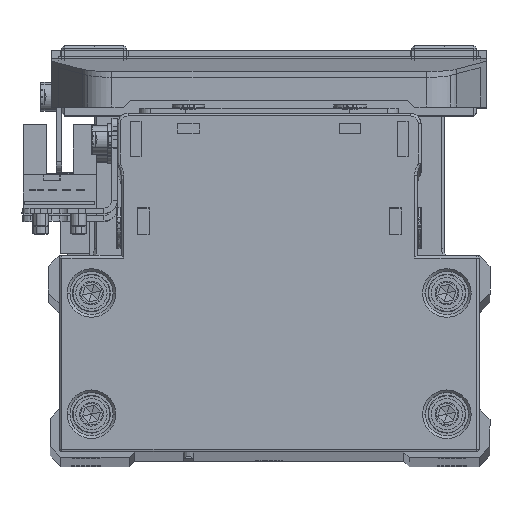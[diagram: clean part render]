
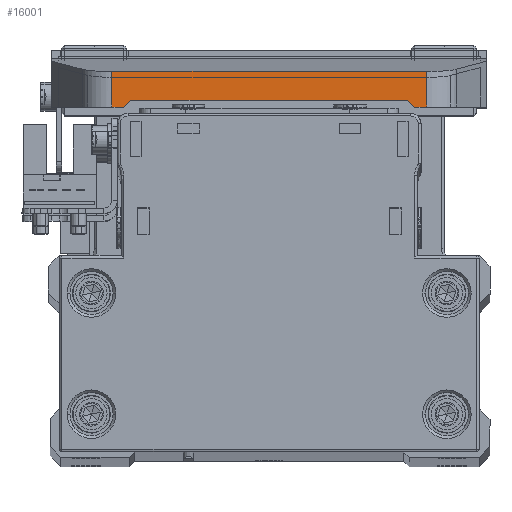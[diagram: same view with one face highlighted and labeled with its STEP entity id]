
A CAD part, top view. The second image highlights one B-rep face of the part: STEP entity #16001.
In plain terms, the highlighted planar face has unit normal (0, 0, 1) as drawn and (-1, 0, 0) by its records, which use the part's own axes.
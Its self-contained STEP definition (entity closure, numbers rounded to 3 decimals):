
#732 = DIRECTION ( 'NONE',  ( 0., 1., 0. ) ) ;
#1615 = ORIENTED_EDGE ( 'NONE', *, *, #29340, .T. ) ;
#2146 = EDGE_CURVE ( 'NONE', #31272, #22961, #9426, .T. ) ;
#2150 = CARTESIAN_POINT ( 'NONE',  ( -67.5, 4., 40.4 ) ) ;
#2430 = ORIENTED_EDGE ( 'NONE', *, *, #30652, .T. ) ;
#2432 = VERTEX_POINT ( 'NONE', #17325 ) ;
#2782 = PLANE ( 'NONE',  #9707 ) ;
#3003 = EDGE_CURVE ( 'NONE', #26417, #31378, #15808, .T. ) ;
#4408 = EDGE_CURVE ( 'NONE', #26086, #10004, #21008, .T. ) ;
#4725 = EDGE_CURVE ( 'NONE', #26417, #2432, #29315, .T. ) ;
#5641 = VERTEX_POINT ( 'NONE', #14682 ) ;
#5673 = CARTESIAN_POINT ( 'NONE',  ( -67.5, 4., 29.225 ) ) ;
#5907 = VECTOR ( 'NONE', #732, 1000. ) ;
#5963 = DIRECTION ( 'NONE',  ( 0., 0.655, -0.756 ) ) ;
#6728 = CARTESIAN_POINT ( 'NONE',  ( -67.5, 10.6, 40.4 ) ) ;
#7178 = VECTOR ( 'NONE', #5963, 1000. ) ;
#7263 = VECTOR ( 'NONE', #11100, 1000. ) ;
#8175 = ORIENTED_EDGE ( 'NONE', *, *, #4408, .T. ) ;
#8644 = VECTOR ( 'NONE', #18801, 1000. ) ;
#8679 = LINE ( 'NONE', #20756, #10926 ) ;
#9107 = VECTOR ( 'NONE', #14256, 1000. ) ;
#9413 = LINE ( 'NONE', #21491, #29795 ) ;
#9426 = LINE ( 'NONE', #21501, #19450 ) ;
#9707 = AXIS2_PLACEMENT_3D ( 'NONE', #14880, #26970, #39041 ) ;
#10004 = VERTEX_POINT ( 'NONE', #29139 ) ;
#10926 = VECTOR ( 'NONE', #32845, 1000. ) ;
#11100 = DIRECTION ( 'NONE',  ( 0., -1., 0. ) ) ;
#12779 = EDGE_LOOP ( 'NONE', ( #2430, #8175, #34688, #15579, #30888, #29566, #1615, #17037 ) ) ;
#12783 = CARTESIAN_POINT ( 'NONE',  ( -67.5, 10.6, 27. ) ) ;
#14256 = DIRECTION ( 'NONE',  ( 0., 0., -1. ) ) ;
#14682 = CARTESIAN_POINT ( 'NONE',  ( -67.5, 10.6, -29.225 ) ) ;
#14880 = CARTESIAN_POINT ( 'NONE',  ( -67.5, 10.6, 40.4 ) ) ;
#15579 = ORIENTED_EDGE ( 'NONE', *, *, #21497, .T. ) ;
#15808 = LINE ( 'NONE', #27895, #5907 ) ;
#16001 = ADVANCED_FACE ( 'NONE', ( #29935 ), #2782, .F. ) ;
#17037 = ORIENTED_EDGE ( 'NONE', *, *, #2146, .T. ) ;
#17325 = CARTESIAN_POINT ( 'NONE',  ( -67.5, 4., -29.225 ) ) ;
#18801 = DIRECTION ( 'NONE',  ( 0., 0., -1. ) ) ;
#19450 = VECTOR ( 'NONE', #33610, 1000. ) ;
#20756 = CARTESIAN_POINT ( 'NONE',  ( -67.5, 9.3, 25.5 ) ) ;
#21008 = LINE ( 'NONE', #33109, #7178 ) ;
#21491 = CARTESIAN_POINT ( 'NONE',  ( -67.5, 10.6, 40.4 ) ) ;
#21497 = EDGE_CURVE ( 'NONE', #5641, #2432, #26158, .T. ) ;
#21501 = CARTESIAN_POINT ( 'NONE',  ( -67.5, 10.6, 27. ) ) ;
#22961 = VERTEX_POINT ( 'NONE', #32868 ) ;
#26086 = VERTEX_POINT ( 'NONE', #27717 ) ;
#26158 = LINE ( 'NONE', #38243, #7263 ) ;
#26417 = VERTEX_POINT ( 'NONE', #5673 ) ;
#26970 = DIRECTION ( 'NONE',  ( 1., 0., 0. ) ) ;
#27717 = CARTESIAN_POINT ( 'NONE',  ( -67.5, 9.3, -25.5 ) ) ;
#27895 = CARTESIAN_POINT ( 'NONE',  ( -67.5, 10.6, 29.225 ) ) ;
#29139 = CARTESIAN_POINT ( 'NONE',  ( -67.5, 10.6, -27. ) ) ;
#29161 = CARTESIAN_POINT ( 'NONE',  ( -67.5, 10.6, 29.225 ) ) ;
#29315 = LINE ( 'NONE', #2150, #9107 ) ;
#29340 = EDGE_CURVE ( 'NONE', #31378, #31272, #9413, .T. ) ;
#29566 = ORIENTED_EDGE ( 'NONE', *, *, #3003, .T. ) ;
#29795 = VECTOR ( 'NONE', #33596, 1000. ) ;
#29935 = FACE_OUTER_BOUND ( 'NONE', #12779, .T. ) ;
#30652 = EDGE_CURVE ( 'NONE', #22961, #26086, #8679, .T. ) ;
#30888 = ORIENTED_EDGE ( 'NONE', *, *, #4725, .F. ) ;
#31272 = VERTEX_POINT ( 'NONE', #12783 ) ;
#31378 = VERTEX_POINT ( 'NONE', #29161 ) ;
#32845 = DIRECTION ( 'NONE',  ( 0., 0., -1. ) ) ;
#32868 = CARTESIAN_POINT ( 'NONE',  ( -67.5, 9.3, 25.5 ) ) ;
#33109 = CARTESIAN_POINT ( 'NONE',  ( -67.5, 10.6, -27. ) ) ;
#33596 = DIRECTION ( 'NONE',  ( 0., 0., -1. ) ) ;
#33610 = DIRECTION ( 'NONE',  ( 0., -0.655, -0.756 ) ) ;
#33879 = LINE ( 'NONE', #6728, #8644 ) ;
#34688 = ORIENTED_EDGE ( 'NONE', *, *, #35988, .T. ) ;
#35988 = EDGE_CURVE ( 'NONE', #10004, #5641, #33879, .T. ) ;
#38243 = CARTESIAN_POINT ( 'NONE',  ( -67.5, 4., -29.225 ) ) ;
#39041 = DIRECTION ( 'NONE',  ( 0., 0., -1. ) ) ;
